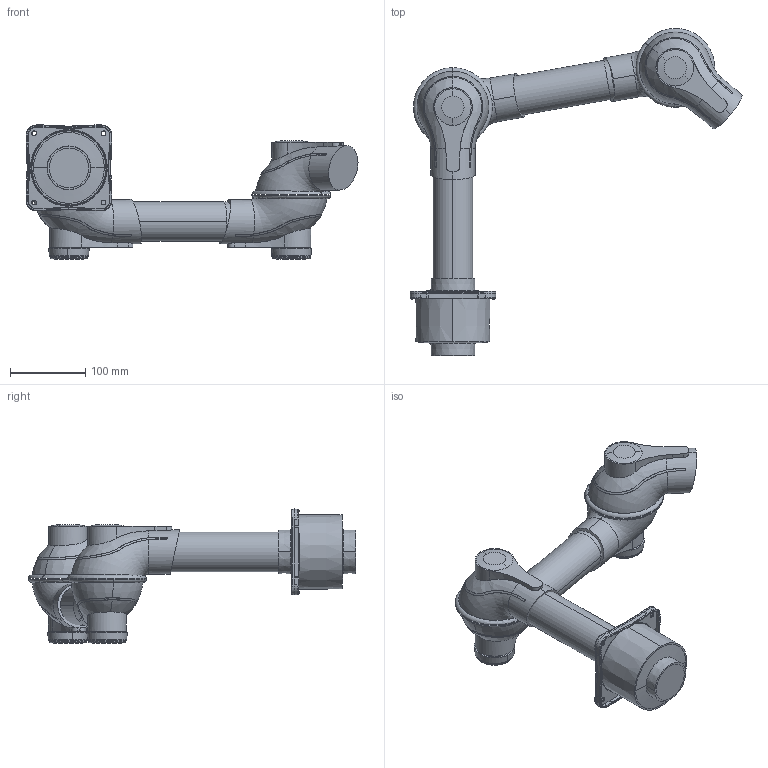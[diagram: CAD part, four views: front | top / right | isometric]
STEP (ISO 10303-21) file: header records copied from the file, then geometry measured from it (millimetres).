
FILE_DESCRIPTION((''),'2;1');
FILE_NAME('102225','2015-10-01T',('Tomas Bellgran'),(''),'PRO/ENGINEER BY PARAMETRIC TECHNOLOGY CORPORATION, 2013410','PRO/ENGINEER BY PARAMETRIC TECHNOLOGY CORPORATION, 2013410','');
FILE_SCHEMA(('AUTOMOTIVE_DESIGN { 1 0 10303 214 1 1 1 1 }'));
Length unit declared in the file: millimetre
Products named in the file (11): 100350; 102161; 102200; 102176; 9933603; 102167; 102169; 105-5481; 101156; 102177; 102225
Assembly tree (14 placements, depth 4):
  102225
    102176
      100350
      102161
      102200
    9933603
    102169
      102167
      102200
    101156
      105-5481
    102177
      102200  x2
      101156
        105-5481
Bounding box: 440.95 x 434.5 x 178.01 mm (x, y, z)
Volume: 3631048.6 mm3; surface area: 323436.9 mm2
Topology: 10 solids, 10 shells, 505 faces, 1212 edges, 738 vertices
Faces by surface type: bspline 192, plane 129, cone 100, cylinder 46, torus 24, sphere 14
Entity records: 27332 total; most frequent: CARTESIAN_POINT 13700, ORIENTED_EDGE 1504, PRESENTATION_STYLE_ASSIGNMENT 1031, STYLED_ITEM 1031, DIRECTION 1026, CURVE_STYLE 752, EDGE_CURVE 752, PROPERTY_DEFINITION 501
